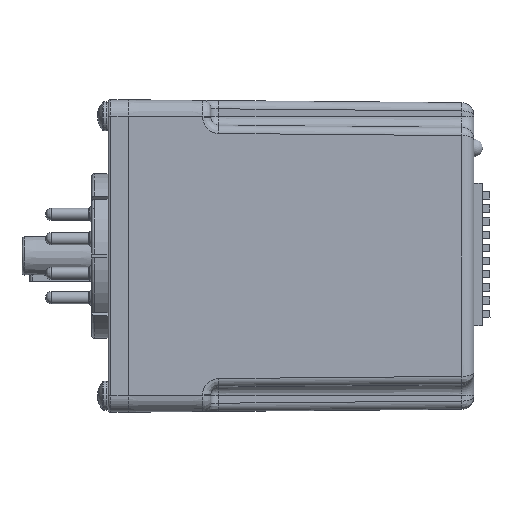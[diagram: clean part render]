
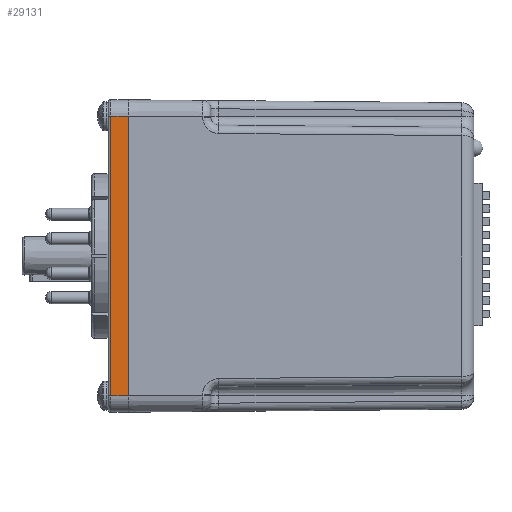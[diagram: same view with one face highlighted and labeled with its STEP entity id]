
A CAD part, left-side view. The second image highlights one B-rep face of the part: STEP entity #29131.
In plain terms, the highlighted planar face has unit normal (-1, 0, 0).
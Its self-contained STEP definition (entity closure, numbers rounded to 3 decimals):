
#8993 = PLANE('',#8994);
#8994 = AXIS2_PLACEMENT_3D('',#8995,#8996,#8997);
#8995 = CARTESIAN_POINT('',(-22.225,176.327,-30.163));
#8996 = DIRECTION('',(0.,1.,0.));
#8997 = DIRECTION('',(1.,0.,-0.));
#15916 = VERTEX_POINT('',#15917);
#15917 = CARTESIAN_POINT('',(-22.225,176.327,26.988));
#15936 = CYLINDRICAL_SURFACE('',#15937,3.175);
#15937 = AXIS2_PLACEMENT_3D('',#15938,#15939,#15940);
#15938 = CARTESIAN_POINT('',(-19.05,176.327,26.988));
#15939 = DIRECTION('',(0.,1.,0.));
#15940 = DIRECTION('',(0.,0.,-1.));
#15948 = EDGE_CURVE('',#15949,#15916,#15951,.T.);
#15949 = VERTEX_POINT('',#15950);
#15950 = CARTESIAN_POINT('',(-22.225,176.327,-26.988));
#15951 = SURFACE_CURVE('',#15952,(#15956,#15963),.PCURVE_S1.);
#15952 = LINE('',#15953,#15954);
#15953 = CARTESIAN_POINT('',(-22.225,176.327,-30.163));
#15954 = VECTOR('',#15955,1.);
#15955 = DIRECTION('',(0.,-0.,1.));
#15956 = PCURVE('',#8993,#15957);
#15957 = DEFINITIONAL_REPRESENTATION('',(#15958),#15962);
#15958 = LINE('',#15959,#15960);
#15959 = CARTESIAN_POINT('',(0.,0.));
#15960 = VECTOR('',#15961,1.);
#15961 = DIRECTION('',(0.,-1.));
#15962 = ( GEOMETRIC_REPRESENTATION_CONTEXT(2) 
PARAMETRIC_REPRESENTATION_CONTEXT() REPRESENTATION_CONTEXT('2D SPACE',''
  ) );
#15963 = PCURVE('',#15964,#15969);
#15964 = PLANE('',#15965);
#15965 = AXIS2_PLACEMENT_3D('',#15966,#15967,#15968);
#15966 = CARTESIAN_POINT('',(-22.225,176.327,-30.163));
#15967 = DIRECTION('',(1.,0.,0.));
#15968 = DIRECTION('',(0.,0.,-1.));
#15969 = DEFINITIONAL_REPRESENTATION('',(#15970),#15974);
#15970 = LINE('',#15971,#15972);
#15971 = CARTESIAN_POINT('',(0.,0.));
#15972 = VECTOR('',#15973,1.);
#15973 = DIRECTION('',(-1.,0.));
#15974 = ( GEOMETRIC_REPRESENTATION_CONTEXT(2) 
PARAMETRIC_REPRESENTATION_CONTEXT() REPRESENTATION_CONTEXT('2D SPACE',''
  ) );
#15997 = CYLINDRICAL_SURFACE('',#15998,3.175);
#15998 = AXIS2_PLACEMENT_3D('',#15999,#16000,#16001);
#15999 = CARTESIAN_POINT('',(-19.05,180.289,-26.988));
#16000 = DIRECTION('',(0.,-1.,0.));
#16001 = DIRECTION('',(0.,0.,1.));
#24210 = CYLINDRICAL_SURFACE('',#24211,0.508);
#24211 = AXIS2_PLACEMENT_3D('',#24212,#24213,#24214);
#24212 = CARTESIAN_POINT('',(-21.717,179.781,-30.163));
#24213 = DIRECTION('',(0.,0.,1.));
#24214 = DIRECTION('',(1.,0.,0.));
#29131 = ADVANCED_FACE('',(#29132),#15964,.F.);
#29132 = FACE_BOUND('',#29133,.T.);
#29133 = EDGE_LOOP('',(#29134,#29157,#29180,#29201));
#29134 = ORIENTED_EDGE('',*,*,#29135,.T.);
#29135 = EDGE_CURVE('',#15916,#29136,#29138,.T.);
#29136 = VERTEX_POINT('',#29137);
#29137 = CARTESIAN_POINT('',(-22.225,179.781,26.988));
#29138 = SURFACE_CURVE('',#29139,(#29143,#29150),.PCURVE_S1.);
#29139 = LINE('',#29140,#29141);
#29140 = CARTESIAN_POINT('',(-22.225,176.327,26.988));
#29141 = VECTOR('',#29142,1.);
#29142 = DIRECTION('',(0.,1.,0.));
#29143 = PCURVE('',#15964,#29144);
#29144 = DEFINITIONAL_REPRESENTATION('',(#29145),#29149);
#29145 = LINE('',#29146,#29147);
#29146 = CARTESIAN_POINT('',(-57.15,0.));
#29147 = VECTOR('',#29148,1.);
#29148 = DIRECTION('',(0.,1.));
#29149 = ( GEOMETRIC_REPRESENTATION_CONTEXT(2) 
PARAMETRIC_REPRESENTATION_CONTEXT() REPRESENTATION_CONTEXT('2D SPACE',''
  ) );
#29150 = PCURVE('',#15936,#29151);
#29151 = DEFINITIONAL_REPRESENTATION('',(#29152),#29156);
#29152 = LINE('',#29153,#29154);
#29153 = CARTESIAN_POINT('',(1.571,0.));
#29154 = VECTOR('',#29155,1.);
#29155 = DIRECTION('',(0.,1.));
#29156 = ( GEOMETRIC_REPRESENTATION_CONTEXT(2) 
PARAMETRIC_REPRESENTATION_CONTEXT() REPRESENTATION_CONTEXT('2D SPACE',''
  ) );
#29157 = ORIENTED_EDGE('',*,*,#29158,.T.);
#29158 = EDGE_CURVE('',#29136,#29159,#29161,.T.);
#29159 = VERTEX_POINT('',#29160);
#29160 = CARTESIAN_POINT('',(-22.225,179.781,-26.988));
#29161 = SURFACE_CURVE('',#29162,(#29166,#29173),.PCURVE_S1.);
#29162 = LINE('',#29163,#29164);
#29163 = CARTESIAN_POINT('',(-22.225,179.781,-30.163));
#29164 = VECTOR('',#29165,1.);
#29165 = DIRECTION('',(0.,0.,-1.));
#29166 = PCURVE('',#15964,#29167);
#29167 = DEFINITIONAL_REPRESENTATION('',(#29168),#29172);
#29168 = LINE('',#29169,#29170);
#29169 = CARTESIAN_POINT('',(0.,3.454));
#29170 = VECTOR('',#29171,1.);
#29171 = DIRECTION('',(1.,0.));
#29172 = ( GEOMETRIC_REPRESENTATION_CONTEXT(2) 
PARAMETRIC_REPRESENTATION_CONTEXT() REPRESENTATION_CONTEXT('2D SPACE',''
  ) );
#29173 = PCURVE('',#24210,#29174);
#29174 = DEFINITIONAL_REPRESENTATION('',(#29175),#29179);
#29175 = LINE('',#29176,#29177);
#29176 = CARTESIAN_POINT('',(3.142,0.));
#29177 = VECTOR('',#29178,1.);
#29178 = DIRECTION('',(0.,-1.));
#29179 = ( GEOMETRIC_REPRESENTATION_CONTEXT(2) 
PARAMETRIC_REPRESENTATION_CONTEXT() REPRESENTATION_CONTEXT('2D SPACE',''
  ) );
#29180 = ORIENTED_EDGE('',*,*,#29181,.T.);
#29181 = EDGE_CURVE('',#29159,#15949,#29182,.T.);
#29182 = SURFACE_CURVE('',#29183,(#29187,#29194),.PCURVE_S1.);
#29183 = LINE('',#29184,#29185);
#29184 = CARTESIAN_POINT('',(-22.225,176.327,-26.988));
#29185 = VECTOR('',#29186,1.);
#29186 = DIRECTION('',(0.,-1.,0.));
#29187 = PCURVE('',#15964,#29188);
#29188 = DEFINITIONAL_REPRESENTATION('',(#29189),#29193);
#29189 = LINE('',#29190,#29191);
#29190 = CARTESIAN_POINT('',(-3.175,0.));
#29191 = VECTOR('',#29192,1.);
#29192 = DIRECTION('',(0.,-1.));
#29193 = ( GEOMETRIC_REPRESENTATION_CONTEXT(2) 
PARAMETRIC_REPRESENTATION_CONTEXT() REPRESENTATION_CONTEXT('2D SPACE',''
  ) );
#29194 = PCURVE('',#15997,#29195);
#29195 = DEFINITIONAL_REPRESENTATION('',(#29196),#29200);
#29196 = LINE('',#29197,#29198);
#29197 = CARTESIAN_POINT('',(1.571,3.962));
#29198 = VECTOR('',#29199,1.);
#29199 = DIRECTION('',(0.,1.));
#29200 = ( GEOMETRIC_REPRESENTATION_CONTEXT(2) 
PARAMETRIC_REPRESENTATION_CONTEXT() REPRESENTATION_CONTEXT('2D SPACE',''
  ) );
#29201 = ORIENTED_EDGE('',*,*,#15948,.T.);
